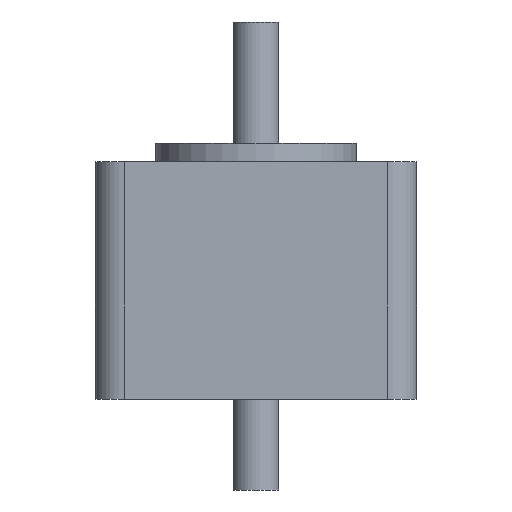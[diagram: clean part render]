
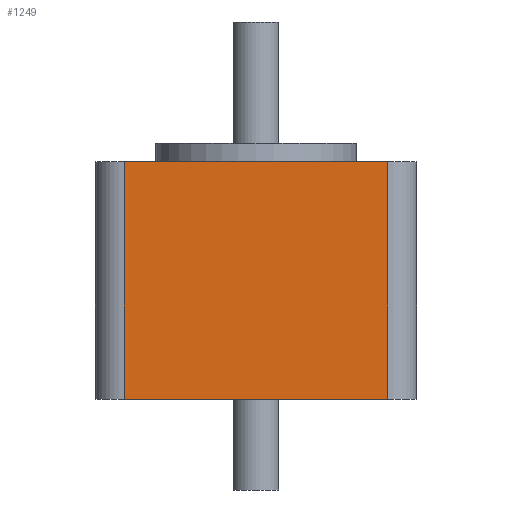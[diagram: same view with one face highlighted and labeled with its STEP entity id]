
A CAD part, front view. The second image highlights one B-rep face of the part: STEP entity #1249.
In plain terms, the highlighted planar face has unit normal (0, -1, 0).
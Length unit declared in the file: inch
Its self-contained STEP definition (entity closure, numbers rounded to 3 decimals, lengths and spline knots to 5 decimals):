
#864=CARTESIAN_POINT('',(-0.565,-0.69,1.02));
#865=VERTEX_POINT('',#864);
#873=CARTESIAN_POINT('',(0.565,-0.69,1.02));
#874=VERTEX_POINT('',#873);
#875=CARTESIAN_POINT('',(-0.565,-0.69,1.02));
#876=DIRECTION('',(1.0,0.0,0.0));
#877=VECTOR('',#876,1.13);
#878=LINE('',#875,#877);
#879=EDGE_CURVE('',#865,#874,#878,.T.);
#1206=CARTESIAN_POINT('',(-0.565,-0.69,0.0));
#1207=VERTEX_POINT('',#1206);
#1215=CARTESIAN_POINT('',(-0.565,-0.69,1.02));
#1216=DIRECTION('',(0.0,0.0,-1.0));
#1217=VECTOR('',#1216,1.02);
#1218=LINE('',#1215,#1217);
#1219=EDGE_CURVE('',#865,#1207,#1218,.T.);
#1226=CARTESIAN_POINT('',(-0.565,-0.69,1.02));
#1227=DIRECTION('',(0.0,-1.0,0.0));
#1228=DIRECTION('',(0.0,0.0,-1.0));
#1229=AXIS2_PLACEMENT_3D('',#1226,#1227,#1228);
#1230=PLANE('',#1229);
#1231=CARTESIAN_POINT('',(0.565,-0.69,0.0));
#1232=VERTEX_POINT('',#1231);
#1233=CARTESIAN_POINT('',(-0.565,-0.69,0.0));
#1234=DIRECTION('',(1.0,0.0,0.0));
#1235=VECTOR('',#1234,1.13);
#1236=LINE('',#1233,#1235);
#1237=EDGE_CURVE('',#1207,#1232,#1236,.T.);
#1238=ORIENTED_EDGE('',*,*,#1237,.T.);
#1239=CARTESIAN_POINT('',(0.565,-0.69,1.02));
#1240=DIRECTION('',(0.0,0.0,-1.0));
#1241=VECTOR('',#1240,1.02);
#1242=LINE('',#1239,#1241);
#1243=EDGE_CURVE('',#874,#1232,#1242,.T.);
#1244=ORIENTED_EDGE('',*,*,#1243,.F.);
#1245=ORIENTED_EDGE('',*,*,#879,.F.);
#1246=ORIENTED_EDGE('',*,*,#1219,.T.);
#1247=EDGE_LOOP('',(#1238,#1244,#1245,#1246));
#1248=FACE_OUTER_BOUND('',#1247,.T.);
#1249=ADVANCED_FACE('',(#1248),#1230,.T.);
